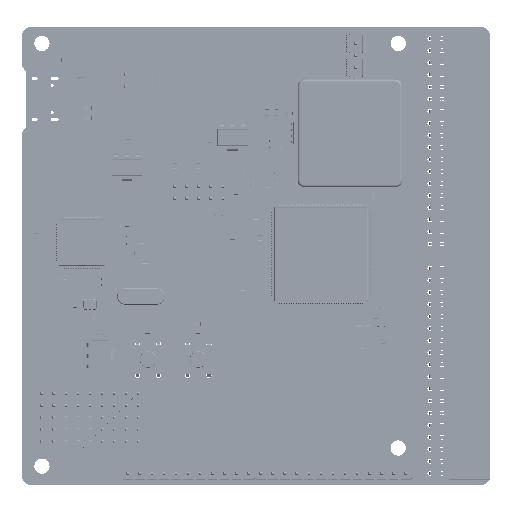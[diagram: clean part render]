
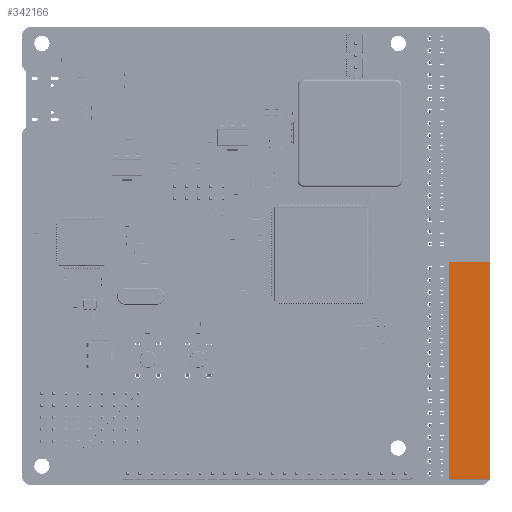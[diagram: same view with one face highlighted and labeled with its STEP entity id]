
A CAD part, top view. The second image highlights one B-rep face of the part: STEP entity #342166.
In plain terms, the highlighted planar face has unit normal (0, 0, 1).
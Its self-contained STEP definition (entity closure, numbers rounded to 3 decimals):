
#342166 = ADVANCED_FACE('',(#342167),#342181,.F.);
#342167 = FACE_BOUND('',#342168,.F.);
#342168 = EDGE_LOOP('',(#342169,#342204,#342232,#342260));
#342169 = ORIENTED_EDGE('',*,*,#342170,.T.);
#342170 = EDGE_CURVE('',#342171,#342173,#342175,.T.);
#342171 = VERTEX_POINT('',#342172);
#342172 = CARTESIAN_POINT('',(-4.06,-44.45,5.08));
#342173 = VERTEX_POINT('',#342174);
#342174 = CARTESIAN_POINT('',(-12.57,-44.45,5.08));
#342175 = SURFACE_CURVE('',#342176,(#342180,#342192),.PCURVE_S1.);
#342176 = LINE('',#342177,#342178);
#342177 = CARTESIAN_POINT('',(-4.06,-44.45,5.08));
#342178 = VECTOR('',#342179,1.);
#342179 = DIRECTION('',(-1.,0.,0.));
#342180 = PCURVE('',#342181,#342186);
#342181 = PLANE('',#342182);
#342182 = AXIS2_PLACEMENT_3D('',#342183,#342184,#342185);
#342183 = CARTESIAN_POINT('',(-4.06,-44.45,5.08));
#342184 = DIRECTION('',(0.,0.,-1.));
#342185 = DIRECTION('',(0.,1.,0.));
#342186 = DEFINITIONAL_REPRESENTATION('',(#342187),#342191);
#342187 = LINE('',#342188,#342189);
#342188 = CARTESIAN_POINT('',(0.,0.));
#342189 = VECTOR('',#342190,1.);
#342190 = DIRECTION('',(0.,-1.));
#342191 = ( GEOMETRIC_REPRESENTATION_CONTEXT(2) 
PARAMETRIC_REPRESENTATION_CONTEXT() REPRESENTATION_CONTEXT('2D SPACE',''
  ) );
#342192 = PCURVE('',#342193,#342198);
#342193 = PLANE('',#342194);
#342194 = AXIS2_PLACEMENT_3D('',#342195,#342196,#342197);
#342195 = CARTESIAN_POINT('',(-4.06,-44.45,0.));
#342196 = DIRECTION('',(0.,1.,0.));
#342197 = DIRECTION('',(0.,0.,1.));
#342198 = DEFINITIONAL_REPRESENTATION('',(#342199),#342203);
#342199 = LINE('',#342200,#342201);
#342200 = CARTESIAN_POINT('',(5.08,0.));
#342201 = VECTOR('',#342202,1.);
#342202 = DIRECTION('',(0.,-1.));
#342203 = ( GEOMETRIC_REPRESENTATION_CONTEXT(2) 
PARAMETRIC_REPRESENTATION_CONTEXT() REPRESENTATION_CONTEXT('2D SPACE',''
  ) );
#342204 = ORIENTED_EDGE('',*,*,#342205,.T.);
#342205 = EDGE_CURVE('',#342173,#342206,#342208,.T.);
#342206 = VERTEX_POINT('',#342207);
#342207 = CARTESIAN_POINT('',(-12.57,1.27,5.08));
#342208 = SURFACE_CURVE('',#342209,(#342213,#342220),.PCURVE_S1.);
#342209 = LINE('',#342210,#342211);
#342210 = CARTESIAN_POINT('',(-12.57,-44.45,5.08));
#342211 = VECTOR('',#342212,1.);
#342212 = DIRECTION('',(0.,1.,0.));
#342213 = PCURVE('',#342181,#342214);
#342214 = DEFINITIONAL_REPRESENTATION('',(#342215),#342219);
#342215 = LINE('',#342216,#342217);
#342216 = CARTESIAN_POINT('',(0.,-8.51));
#342217 = VECTOR('',#342218,1.);
#342218 = DIRECTION('',(1.,0.));
#342219 = ( GEOMETRIC_REPRESENTATION_CONTEXT(2) 
PARAMETRIC_REPRESENTATION_CONTEXT() REPRESENTATION_CONTEXT('2D SPACE',''
  ) );
#342220 = PCURVE('',#342221,#342226);
#342221 = PLANE('',#342222);
#342222 = AXIS2_PLACEMENT_3D('',#342223,#342224,#342225);
#342223 = CARTESIAN_POINT('',(-12.57,-44.45,5.08));
#342224 = DIRECTION('',(1.,0.,0.));
#342225 = DIRECTION('',(0.,-1.,0.));
#342226 = DEFINITIONAL_REPRESENTATION('',(#342227),#342231);
#342227 = LINE('',#342228,#342229);
#342228 = CARTESIAN_POINT('',(0.,0.));
#342229 = VECTOR('',#342230,1.);
#342230 = DIRECTION('',(-1.,0.));
#342231 = ( GEOMETRIC_REPRESENTATION_CONTEXT(2) 
PARAMETRIC_REPRESENTATION_CONTEXT() REPRESENTATION_CONTEXT('2D SPACE',''
  ) );
#342232 = ORIENTED_EDGE('',*,*,#342233,.F.);
#342233 = EDGE_CURVE('',#342234,#342206,#342236,.T.);
#342234 = VERTEX_POINT('',#342235);
#342235 = CARTESIAN_POINT('',(-4.06,1.27,5.08));
#342236 = SURFACE_CURVE('',#342237,(#342241,#342248),.PCURVE_S1.);
#342237 = LINE('',#342238,#342239);
#342238 = CARTESIAN_POINT('',(-4.06,1.27,5.08));
#342239 = VECTOR('',#342240,1.);
#342240 = DIRECTION('',(-1.,0.,0.));
#342241 = PCURVE('',#342181,#342242);
#342242 = DEFINITIONAL_REPRESENTATION('',(#342243),#342247);
#342243 = LINE('',#342244,#342245);
#342244 = CARTESIAN_POINT('',(45.72,0.));
#342245 = VECTOR('',#342246,1.);
#342246 = DIRECTION('',(0.,-1.));
#342247 = ( GEOMETRIC_REPRESENTATION_CONTEXT(2) 
PARAMETRIC_REPRESENTATION_CONTEXT() REPRESENTATION_CONTEXT('2D SPACE',''
  ) );
#342248 = PCURVE('',#342249,#342254);
#342249 = PLANE('',#342250);
#342250 = AXIS2_PLACEMENT_3D('',#342251,#342252,#342253);
#342251 = CARTESIAN_POINT('',(-4.06,1.27,5.08));
#342252 = DIRECTION('',(0.,-1.,0.));
#342253 = DIRECTION('',(0.,0.,-1.));
#342254 = DEFINITIONAL_REPRESENTATION('',(#342255),#342259);
#342255 = LINE('',#342256,#342257);
#342256 = CARTESIAN_POINT('',(0.,0.));
#342257 = VECTOR('',#342258,1.);
#342258 = DIRECTION('',(0.,-1.));
#342259 = ( GEOMETRIC_REPRESENTATION_CONTEXT(2) 
PARAMETRIC_REPRESENTATION_CONTEXT() REPRESENTATION_CONTEXT('2D SPACE',''
  ) );
#342260 = ORIENTED_EDGE('',*,*,#342261,.F.);
#342261 = EDGE_CURVE('',#342171,#342234,#342262,.T.);
#342262 = SURFACE_CURVE('',#342263,(#342267,#342274),.PCURVE_S1.);
#342263 = LINE('',#342264,#342265);
#342264 = CARTESIAN_POINT('',(-4.06,-44.45,5.08));
#342265 = VECTOR('',#342266,1.);
#342266 = DIRECTION('',(0.,1.,0.));
#342267 = PCURVE('',#342181,#342268);
#342268 = DEFINITIONAL_REPRESENTATION('',(#342269),#342273);
#342269 = LINE('',#342270,#342271);
#342270 = CARTESIAN_POINT('',(0.,0.));
#342271 = VECTOR('',#342272,1.);
#342272 = DIRECTION('',(1.,0.));
#342273 = ( GEOMETRIC_REPRESENTATION_CONTEXT(2) 
PARAMETRIC_REPRESENTATION_CONTEXT() REPRESENTATION_CONTEXT('2D SPACE',''
  ) );
#342274 = PCURVE('',#342275,#342280);
#342275 = PLANE('',#342276);
#342276 = AXIS2_PLACEMENT_3D('',#342277,#342278,#342279);
#342277 = CARTESIAN_POINT('',(-4.06,-44.45,5.08));
#342278 = DIRECTION('',(1.,0.,0.));
#342279 = DIRECTION('',(0.,-1.,0.));
#342280 = DEFINITIONAL_REPRESENTATION('',(#342281),#342285);
#342281 = LINE('',#342282,#342283);
#342282 = CARTESIAN_POINT('',(0.,0.));
#342283 = VECTOR('',#342284,1.);
#342284 = DIRECTION('',(-1.,0.));
#342285 = ( GEOMETRIC_REPRESENTATION_CONTEXT(2) 
PARAMETRIC_REPRESENTATION_CONTEXT() REPRESENTATION_CONTEXT('2D SPACE',''
  ) );
